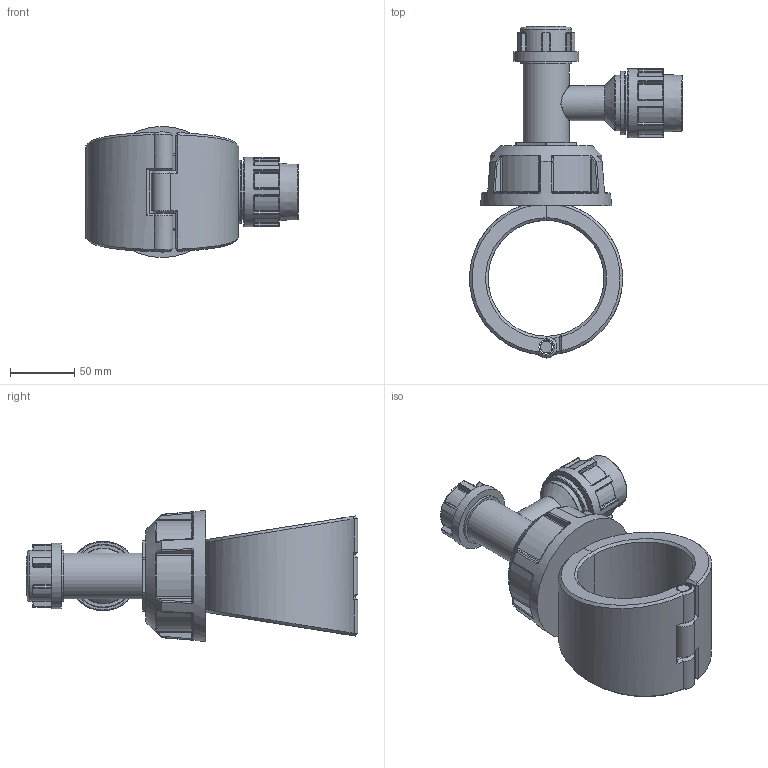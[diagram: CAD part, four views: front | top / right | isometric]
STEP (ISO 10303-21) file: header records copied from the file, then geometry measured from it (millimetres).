
FILE_DESCRIPTION(/* description */ ('Plassadle Tapper 90x25'),/* implementation_level */ '2;1');
FILE_NAME(/* name */ 'C:\Users\comp2\Dropbox\99-16-3568-Processing\Mechanical Fittings\16310\stp\163100090025_1631060900250A.stp',/* time_stamp */ '2022-02-03T11:57:15+00:00',/* author */ ('comp2'),/* organization */ (''),/* preprocessor_version */ 'ST-DEVELOPER v17.2',/* originating_system */ 'Autodesk Inventor 2019',/* authorisation */ '');
FILE_SCHEMA (('AUTOMOTIVE_DESIGN { 1 0 10303 214 3 1 1 }'));
Length unit declared in the file: millimetre
Products named in the file (1): 163100090025_1631060900250A
Bounding box: 165.49 x 258 x 102 mm (x, y, z)
Volume: 862055.3 mm3; surface area: 125499.1 mm2
Topology: 4 solids, 4 shells, 519 faces, 1253 edges, 754 vertices
Faces by surface type: cylinder 184, plane 109, bspline 87, torus 83, sphere 40, cone 16
Full cylindrical faces by diameter (mm): 9.08 x1, 11.08 x3, 25 x1, 27 x1, 30.6 x1, 35.7 x1, 39.7 x2, 43.2 x2, 49.378 x1, 51 x1, 54 x1
Entity records: 18819 total; most frequent: CARTESIAN_POINT 7066, ORIENTED_EDGE 2508, DIRECTION 2426, EDGE_CURVE 1254, AXIS2_PLACEMENT_3D 1028, VERTEX_POINT 755, CIRCLE 563, EDGE_LOOP 537
